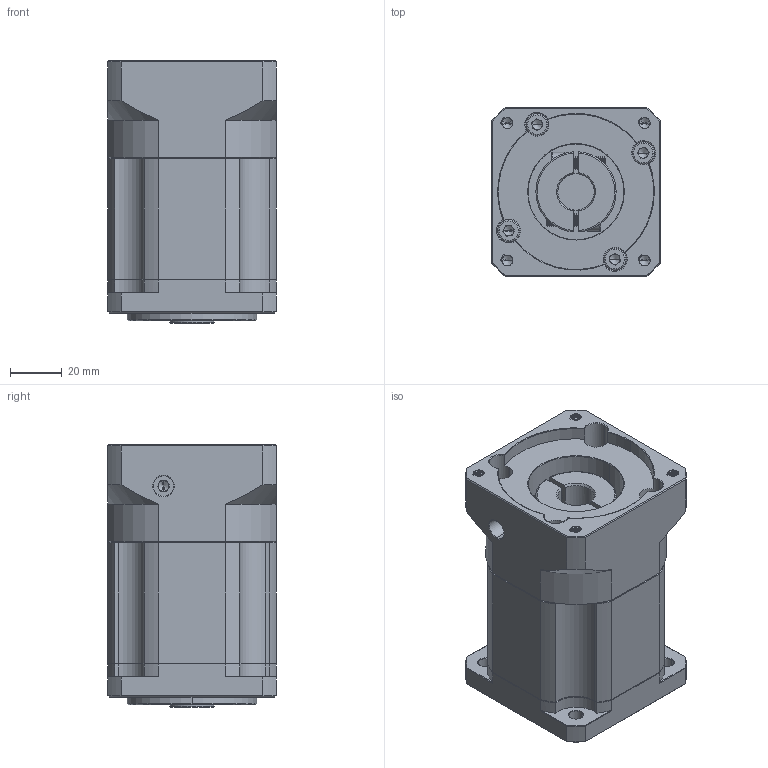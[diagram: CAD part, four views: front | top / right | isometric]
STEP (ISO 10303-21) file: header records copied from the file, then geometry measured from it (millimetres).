
FILE_DESCRIPTION (( 'STEP AP214' ), '1' );
FILE_NAME ('ZB60-K10-L2-14-60-75-M5.STEP', '2022-04-17T07:38:54', ( '' ), ( 'Microsoft' ), 'SwSTEP 2.0', 'SolidWorks 2016', '' );
FILE_SCHEMA (( 'AUTOMOTIVE_DESIGN' ));
Length unit declared in the file: millimetre
Products named in the file (1): ZB60-K10-L2-14-60-75-M5
Bounding box: 65 x 65 x 101.5 mm (x, y, z)
Volume: 318271.4 mm3; surface area: 57476.5 mm2
Topology: 6 solids, 6 shells, 1841 faces, 4890 edges, 3131 vertices
Faces by surface type: plane 876, cylinder 357, bspline 292, cone 282, torus 34
Entity records: 96283 total; most frequent: CARTESIAN_POINT 32405, ORIENTED_EDGE 9724, DIRECTION 8061, EDGE_CURVE 4862, VERTEX_POINT 3131, VECTOR 2987, LINE 2987, AXIS2_PLACEMENT_3D 2537
